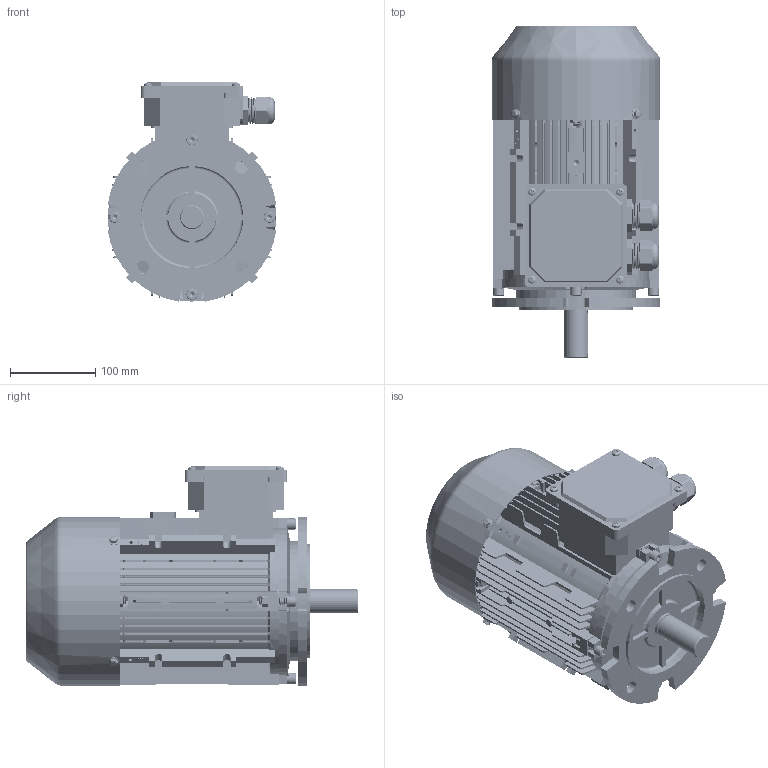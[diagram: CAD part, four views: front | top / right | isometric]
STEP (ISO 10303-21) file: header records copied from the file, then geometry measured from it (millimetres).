
FILE_DESCRIPTION (( 'STEP AP203' ), '1' );
FILE_NAME ('ME3-100B5R 3D.STEP', '2024-07-04T07:44:29', ( 'User' ), ( 'China' ), 'SwSTEP 2.0', 'SolidWorks 2018', '' );
FILE_SCHEMA (( 'CONFIG_CONTROL_DESIGN' ));
Length unit declared in the file: millimetre
Products named in the file (20): wave single coil spring lock washers gb_GB_FASTENER_WASHER_WSLW 8; 蚐猾45X30X7; hexagon socket head cap screws gb_GB_FASTENER_SCREWS_HSHCS M8X25-S; ME 3 100 瑞珔; cross recessed pan head screws gb_GB_CROSS_SCREWS_TYPE1 M5X8-8  H type-S; circlips for shaft--type b gb_GB_CONNECTING_PIECE_RINGS_CSB 22; MS112-132諉盄碟裔; MS112-132 諉盄碟釱; ME3-100 瑞欶; M24 蹟杶; ME3-100 儂褲; hex flange bolts-heavy grade b gb_GB_FASTENER_BOLT_HFBB M5X10-S; M24 蹟杶簸; ME3-100ヶ傷裔B3; ME3-100B5R傷裔; hexagon socket head cap screws gb_GB_FASTENER_SCREWS_HSHCS M8X35-S; deep groove ball bearings gb_Rolling bearings 6206 GB 276-94; ME3-100B5R  3D; hex nuts, style 2-grades ab gb_GB_HEXAGON_TYPE13 M8 Normal Style-S; ME3-100转轴（206.5）
Assembly tree (49 placements, depth 2):
  ME3-100B5R  3D
    ME3-100 儂褲
    ME3-100ヶ傷裔B3
    deep groove ball bearings gb_Rolling bearings 6206 GB 276-94  x2
    ME3-100转轴（206.5）
    蚐猾45X30X7
    ME 3 100 瑞珔
    circlips for shaft--type b gb_GB_CONNECTING_PIECE_RINGS_CSB 22
    MS112-132 諉盄碟釱
    M24 蹟杶  x2
    M24 蹟杶簸  x2
    hexagon socket head cap screws gb_GB_FASTENER_SCREWS_HSHCS M8X35-S  x7
    hex nuts, style 2-grades ab gb_GB_HEXAGON_TYPE13 M8 Normal Style-S  x9
    wave single coil spring lock washers gb_GB_FASTENER_WASHER_WSLW 8  x4
    hexagon socket head cap screws gb_GB_FASTENER_SCREWS_HSHCS M8X25-S
    cross recessed pan head screws gb_GB_CROSS_SCREWS_TYPE1 M5X8-8  H type-S  x8
    MS112-132諉盄碟裔
    ME3-100 瑞欶
    hex flange bolts-heavy grade b gb_GB_FASTENER_BOLT_HFBB M5X10-S  x4
    ME3-100B5R傷裔
Bounding box: 197.74 x 388.69 x 256.87 mm (x, y, z)
Volume: 1989290.3 mm3; surface area: 1127837.7 mm2
Topology: 49 solids, 50 shells, 7049 faces, 16852 edges, 9842 vertices
Faces by surface type: cone 2703, cylinder 2122, plane 1818, torus 242, bspline 84, sphere 80
Entity records: 119184 total; most frequent: CARTESIAN_POINT 32169, ORIENTED_EDGE 17998, DIRECTION 17217, EDGE_CURVE 8999, AXIS2_PLACEMENT_3D 6043, VERTEX_POINT 5627, LINE 5131, VECTOR 5131
